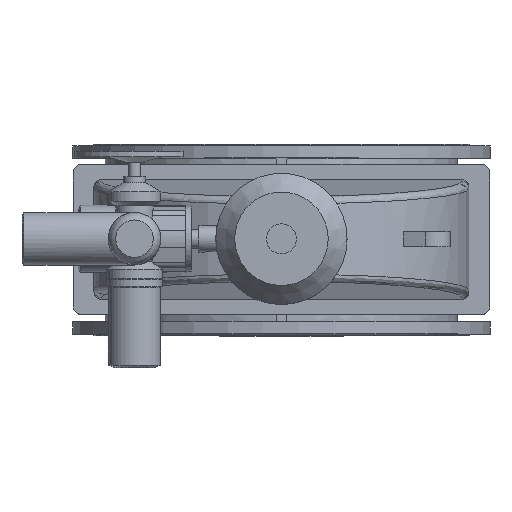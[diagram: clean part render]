
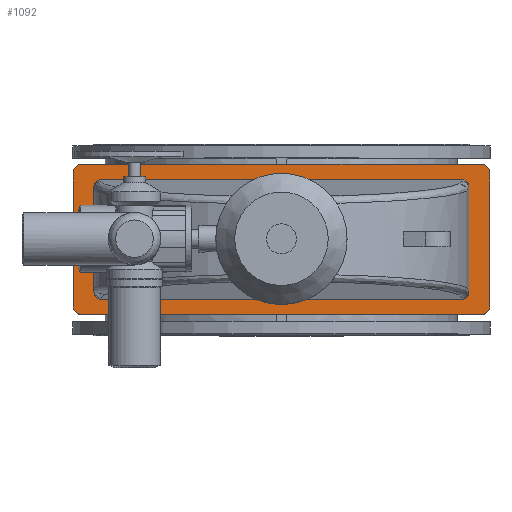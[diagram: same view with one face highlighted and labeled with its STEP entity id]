
A CAD part, top view. The second image highlights one B-rep face of the part: STEP entity #1092.
In plain terms, the highlighted planar face has unit normal (0, 0, 1).
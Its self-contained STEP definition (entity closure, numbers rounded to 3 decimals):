
#1092=ADVANCED_FACE('',(#4861,#4863),#4865,.T.);
#4861=FACE_BOUND('',#4862,.T.);
#4862=EDGE_LOOP('',(#9582,#9583,#9584,#9585,#9586,#9587,#9588,#9589));
#4863=FACE_BOUND('',#4864,.T.);
#4864=EDGE_LOOP('',(#9590,#9591,#9592,#9593,#9594,#9595,#9596,#9597));
#4865=PLANE('',#4866);
#4866=AXIS2_PLACEMENT_3D('',#4867,#4868,#4869);
#4867=CARTESIAN_POINT('',(0.,0.,996.));
#4868=DIRECTION('',(0.,-0.,1.));
#4869=DIRECTION('',(0.,1.,0.));
#9582=ORIENTED_EDGE('',*,*,#10967,.F.);
#9583=ORIENTED_EDGE('',*,*,#10968,.T.);
#9584=ORIENTED_EDGE('',*,*,#10969,.F.);
#9585=ORIENTED_EDGE('',*,*,#10970,.T.);
#9586=ORIENTED_EDGE('',*,*,#10971,.F.);
#9587=ORIENTED_EDGE('',*,*,#10972,.T.);
#9588=ORIENTED_EDGE('',*,*,#10973,.F.);
#9589=ORIENTED_EDGE('',*,*,#10974,.T.);
#9590=ORIENTED_EDGE('',*,*,#10965,.F.);
#9591=ORIENTED_EDGE('',*,*,#10964,.F.);
#9592=ORIENTED_EDGE('',*,*,#10966,.F.);
#9593=ORIENTED_EDGE('',*,*,#10941,.F.);
#9594=ORIENTED_EDGE('',*,*,#10975,.F.);
#9595=ORIENTED_EDGE('',*,*,#10976,.F.);
#9596=ORIENTED_EDGE('',*,*,#10977,.F.);
#9597=ORIENTED_EDGE('',*,*,#10934,.F.);
#10934=EDGE_CURVE('',#11897,#11899,#11900,.T.);
#10941=EDGE_CURVE('',#11909,#11907,#11911,.T.);
#10964=EDGE_CURVE('',#11946,#11944,#11948,.T.);
#10965=EDGE_CURVE('',#11944,#11897,#11949,.F.);
#10966=EDGE_CURVE('',#11907,#11946,#11950,.T.);
#10967=EDGE_CURVE('',#11951,#11952,#11953,.F.);
#10968=EDGE_CURVE('',#11951,#11954,#11955,.T.);
#10969=EDGE_CURVE('',#11956,#11954,#11957,.F.);
#10970=EDGE_CURVE('',#11956,#11958,#11959,.T.);
#10971=EDGE_CURVE('',#11960,#11958,#11961,.F.);
#10972=EDGE_CURVE('',#11960,#11962,#11963,.T.);
#10973=EDGE_CURVE('',#11964,#11962,#11965,.F.);
#10974=EDGE_CURVE('',#11964,#11952,#11966,.T.);
#10975=EDGE_CURVE('',#11967,#11909,#11968,.F.);
#10976=EDGE_CURVE('',#11969,#11967,#11970,.T.);
#10977=EDGE_CURVE('',#11899,#11969,#11971,.T.);
#11897=VERTEX_POINT('',#14896);
#11899=VERTEX_POINT('',#14900);
#11900=LINE('',#14901,#14902);
#11907=VERTEX_POINT('',#14921);
#11909=VERTEX_POINT('',#14925);
#11911=LINE('',#14929,#14930);
#11944=VERTEX_POINT('',#15012);
#11946=VERTEX_POINT('',#15016);
#11948=LINE('',#15020,#15021);
#11949=(BOUNDED_CURVE()B_SPLINE_CURVE(3,
(#15023,#15024,#15025,#15026),
.UNSPECIFIED.,.F.,.F.)B_SPLINE_CURVE_WITH_KNOTS((4,4),
(0.,1.),
.UNSPECIFIED.)CURVE()GEOMETRIC_REPRESENTATION_ITEM()RATIONAL_B_SPLINE_CURVE((1.,
0.805,0.805,1.))REPRESENTATION_ITEM(''));
#11950=(BOUNDED_CURVE()B_SPLINE_CURVE(3,
(#15027,#15028,#15029,#15030),
.UNSPECIFIED.,.F.,.F.)B_SPLINE_CURVE_WITH_KNOTS((4,4),
(0.,1.),
.UNSPECIFIED.)CURVE()GEOMETRIC_REPRESENTATION_ITEM()RATIONAL_B_SPLINE_CURVE((1.,
0.805,0.805,1.))REPRESENTATION_ITEM(''));
#11951=VERTEX_POINT('',#15031);
#11952=VERTEX_POINT('',#15032);
#11953=CIRCLE('',#15033,20.);
#11954=VERTEX_POINT('',#15037);
#11955=LINE('',#15038,#15039);
#11956=VERTEX_POINT('',#15041);
#11957=CIRCLE('',#15042,20.);
#11958=VERTEX_POINT('',#15046);
#11959=LINE('',#15047,#15048);
#11960=VERTEX_POINT('',#15050);
#11961=CIRCLE('',#15051,20.);
#11962=VERTEX_POINT('',#15055);
#11963=LINE('',#15056,#15057);
#11964=VERTEX_POINT('',#15059);
#11965=CIRCLE('',#15060,20.);
#11966=LINE('',#15064,#15065);
#11967=VERTEX_POINT('',#15067);
#11968=(BOUNDED_CURVE()B_SPLINE_CURVE(3,
(#15068,#15069,#15070,#15071),
.UNSPECIFIED.,.F.,.F.)B_SPLINE_CURVE_WITH_KNOTS((4,4),
(0.,1.),
.UNSPECIFIED.)CURVE()GEOMETRIC_REPRESENTATION_ITEM()RATIONAL_B_SPLINE_CURVE((1.,
0.805,0.805,1.))REPRESENTATION_ITEM(''));
#11969=VERTEX_POINT('',#15072);
#11970=LINE('',#15073,#15074);
#11971=(BOUNDED_CURVE()B_SPLINE_CURVE(3,
(#15076,#15077,#15078,#15079),
.UNSPECIFIED.,.F.,.F.)B_SPLINE_CURVE_WITH_KNOTS((4,4),
(0.,1.),
.UNSPECIFIED.)CURVE()GEOMETRIC_REPRESENTATION_ITEM()RATIONAL_B_SPLINE_CURVE((1.,
0.805,0.805,1.))REPRESENTATION_ITEM(''));
#14896=CARTESIAN_POINT('',(500.,-139.924,996.));
#14900=CARTESIAN_POINT('',(500.,139.924,996.));
#14901=CARTESIAN_POINT('',(500.,-139.924,996.));
#14902=VECTOR('',#14903,1.);
#14903=DIRECTION('',(0.,1.,0.));
#14921=CARTESIAN_POINT('',(-500.,-139.924,996.));
#14925=CARTESIAN_POINT('',(-500.,139.924,996.));
#14929=CARTESIAN_POINT('',(-500.,139.924,996.));
#14930=VECTOR('',#14931,1.);
#14931=DIRECTION('',(0.,-1.,0.));
#15012=CARTESIAN_POINT('',(480.,-160.,996.));
#15016=CARTESIAN_POINT('',(-480.,-160.,996.));
#15020=CARTESIAN_POINT('',(-480.,-160.,996.));
#15021=VECTOR('',#15022,1.);
#15022=DIRECTION('',(1.,0.,0.));
#15023=CARTESIAN_POINT('',(500.,-139.924,996.));
#15024=CARTESIAN_POINT('',(500.,-151.684,996.));
#15025=CARTESIAN_POINT('',(491.716,-160.,996.));
#15026=CARTESIAN_POINT('',(480.,-160.,996.));
#15027=CARTESIAN_POINT('',(-500.,-139.924,996.));
#15028=CARTESIAN_POINT('',(-500.,-151.684,996.));
#15029=CARTESIAN_POINT('',(-491.716,-160.,996.));
#15030=CARTESIAN_POINT('',(-480.,-160.,996.));
#15031=CARTESIAN_POINT('',(-535.,-200.,996.));
#15032=CARTESIAN_POINT('',(-555.,-180.,996.));
#15033=AXIS2_PLACEMENT_3D('',#15034,#15035,#15036);
#15034=CARTESIAN_POINT('',(-535.,-180.,996.));
#15035=DIRECTION('',(0.,-0.,1.));
#15036=DIRECTION('',(-1.,0.,0.));
#15037=CARTESIAN_POINT('',(535.,-200.,996.));
#15038=CARTESIAN_POINT('',(-535.,-200.,996.));
#15039=VECTOR('',#15040,1.);
#15040=DIRECTION('',(1.,0.,0.));
#15041=CARTESIAN_POINT('',(555.,-180.,996.));
#15042=AXIS2_PLACEMENT_3D('',#15043,#15044,#15045);
#15043=CARTESIAN_POINT('',(535.,-180.,996.));
#15044=DIRECTION('',(0.,-0.,1.));
#15045=DIRECTION('',(0.,-1.,0.));
#15046=CARTESIAN_POINT('',(555.,180.,996.));
#15047=CARTESIAN_POINT('',(555.,-180.,996.));
#15048=VECTOR('',#15049,1.);
#15049=DIRECTION('',(0.,1.,0.));
#15050=CARTESIAN_POINT('',(535.,200.,996.));
#15051=AXIS2_PLACEMENT_3D('',#15052,#15053,#15054);
#15052=CARTESIAN_POINT('',(535.,180.,996.));
#15053=DIRECTION('',(0.,-0.,1.));
#15054=DIRECTION('',(1.,0.,0.));
#15055=CARTESIAN_POINT('',(-535.,200.,996.));
#15056=CARTESIAN_POINT('',(535.,200.,996.));
#15057=VECTOR('',#15058,1.);
#15058=DIRECTION('',(-1.,0.,0.));
#15059=CARTESIAN_POINT('',(-555.,180.,996.));
#15060=AXIS2_PLACEMENT_3D('',#15061,#15062,#15063);
#15061=CARTESIAN_POINT('',(-535.,180.,996.));
#15062=DIRECTION('',(0.,-0.,1.));
#15063=DIRECTION('',(0.,1.,0.));
#15064=CARTESIAN_POINT('',(-555.,180.,996.));
#15065=VECTOR('',#15066,1.);
#15066=DIRECTION('',(0.,-1.,0.));
#15067=CARTESIAN_POINT('',(-480.,160.,996.));
#15068=CARTESIAN_POINT('',(-500.,139.924,996.));
#15069=CARTESIAN_POINT('',(-500.,151.684,996.));
#15070=CARTESIAN_POINT('',(-491.716,160.,996.));
#15071=CARTESIAN_POINT('',(-480.,160.,996.));
#15072=CARTESIAN_POINT('',(480.,160.,996.));
#15073=CARTESIAN_POINT('',(480.,160.,996.));
#15074=VECTOR('',#15075,1.);
#15075=DIRECTION('',(-1.,0.,0.));
#15076=CARTESIAN_POINT('',(500.,139.924,996.));
#15077=CARTESIAN_POINT('',(500.,151.684,996.));
#15078=CARTESIAN_POINT('',(491.716,160.,996.));
#15079=CARTESIAN_POINT('',(480.,160.,996.));
